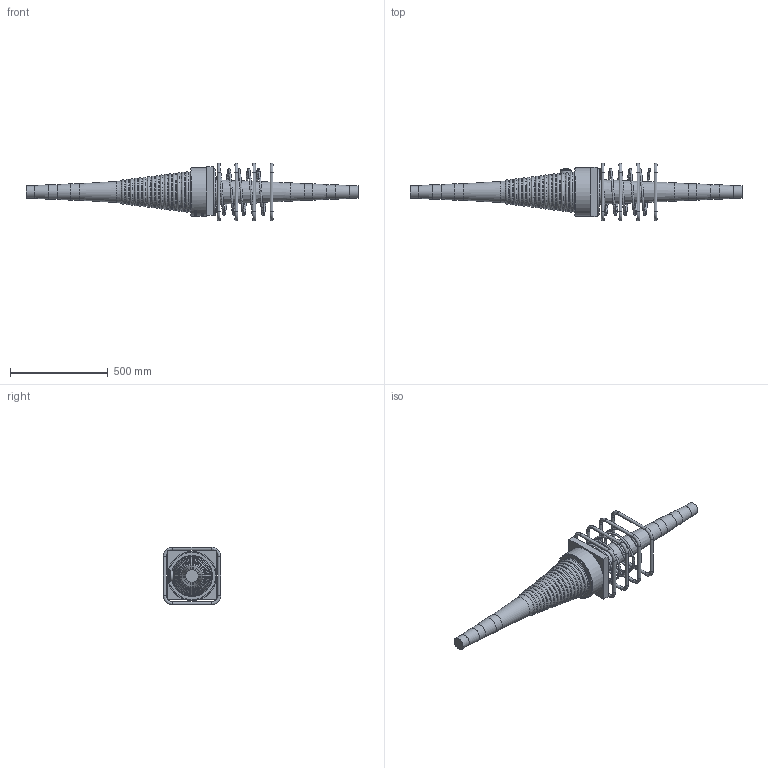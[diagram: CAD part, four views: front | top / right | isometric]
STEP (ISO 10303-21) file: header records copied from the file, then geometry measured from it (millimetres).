
FILE_DESCRIPTION(/* description */ (''),/* implementation_level */ '2;1');
FILE_NAME(/* name */ 'Z:\04 Publications\05 Give-out\BBR\6_3D_Models\BBR VT CONA CMI\BBR VT CONA CMI SP\00906\BBR VT CONA CMI SP 906_Couler K Assembly_CS-34,28.stp',/* time_stamp */ '2017-05-05T15:16:24+02:00',/* author */ ('IP'),/* organization */ (''),/* preprocessor_version */ 'ST-DEVELOPER v16.1',/* originating_system */ 'Autodesk Inventor 2016',/* authorisation */ '');
FILE_SCHEMA (('AUTOMOTIVE_DESIGN { 1 0 10303 214 3 1 1 }'));
Length unit declared in the file: millimetre
Products named in the file (1): BBR VT CONA CMI SP 906_Couler K Assembly_CS-34,28
Bounding box: 1696 x 295 x 295 mm (x, y, z)
Volume: 23009370.5 mm3; surface area: 1085113.3 mm2
Topology: 6 solids, 6 shells, 846 faces, 2189 edges, 1414 vertices
Faces by surface type: bspline 408, plane 246, cylinder 89, torus 75, cone 18, sphere 10
Full cylindrical faces by diameter (mm): 16 x16, 34 x1, 57 x1, 64 x2, 74 x2, 84 x2, 240 x1, 250 x1
Entity records: 37728 total; most frequent: CARTESIAN_POINT 19750, ORIENTED_EDGE 4156, DIRECTION 2545, EDGE_CURVE 2077, VERTEX_POINT 1411, EDGE_LOOP 1023, LINE 855, VECTOR 855
